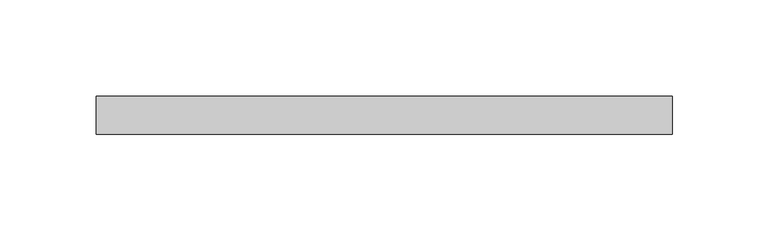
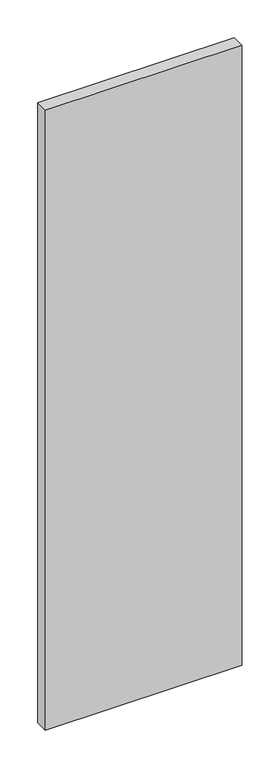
"""IFC4 building model written with IfcOpenShell, lengths in millimetres: furniture geometry, Apoio Lateral do Painel de TV : Apoio Lateral do Painel de TV."""

from ifc_helpers import new_model, si_unit, origin, origin_with_axes, place, context, project, spatial, polyline, outline, extrude, source, transform, mapped, element, save


def furniture_26f772b4(model_context):
    return source(origin(), model_context, "Body", "SweptSolid", [
        extrude(outline(polyline([(300.0, -20.0), (0.0, -20.0), (0.0, 0.0), (300.0, 0.0), (300.0, -20.0)])), origin_with_axes(), (0.0, 0.0, 1.0), 1000.0),
    ])


if __name__ == "__main__":
    model = new_model("IFC4")
    model_context = context("Model", 3, world=origin())
    ifc_project = project(units=[si_unit("LENGTHUNIT", "METRE", prefix="MILLI")], contexts=[model_context])
    site = spatial("IfcSite", under=ifc_project)
    building = spatial("IfcBuilding", under=site)
    placement = place(None, origin())
    furniture_shape = furniture_26f772b4(model_context)
    element("IfcFurniture", 1, ObjectType="Apoio Lateral do Painel de TV : Apoio Lateral do Painel de TV", at=placement, inside=building, context=model_context, shape_type="MappedRepresentation", body=[
        mapped(furniture_shape, transform((0.0, 0.0, 0.0), x_axis=(1.0, 0.0, 0.0), y_axis=(0.0, 1.0, 0.0), z_axis=(0.0, 0.0, 1.0))),
    ])
    save(model, "model.ifc")
